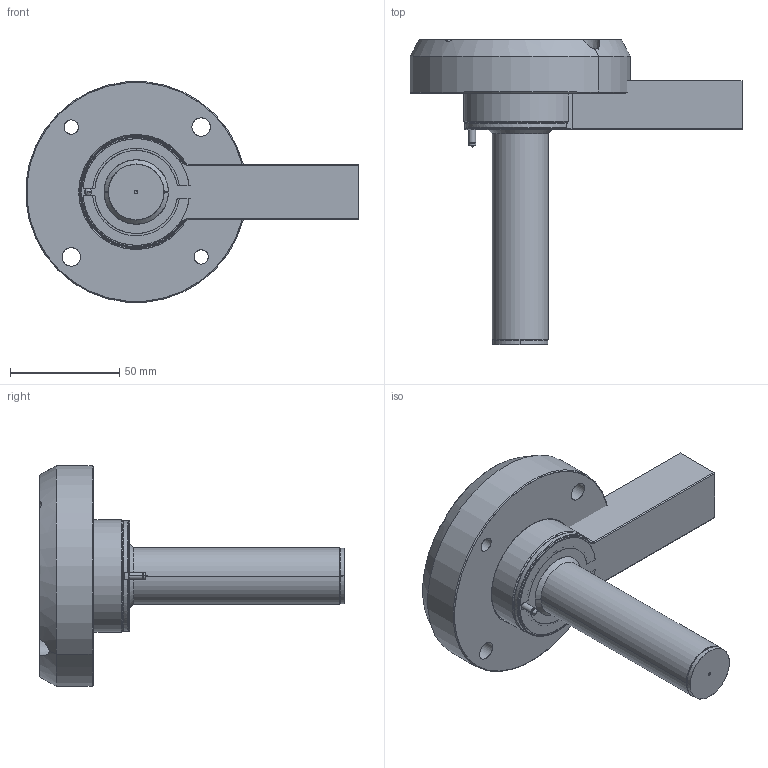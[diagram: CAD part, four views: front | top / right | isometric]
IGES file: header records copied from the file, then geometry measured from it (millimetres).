
Start section: SolidWorks IGES file using analytic representation for surfaces
Global section: file name: C:\Users\Ryan\Documents\PCS\Hot Sprue Bushings\PCS Standard Hot Sprue Bushings\HSB-XX-X-SN-100-X\HSB-38-2-SN-100-2.igs; native system: SolidWorks 2009; preprocessor: SolidWorks 2009; author: Ryan; date: 140521.052214; units: inch
Bounding box: 152.08 x 139.68 x 100.96 mm (x, y, z)
Surface area: 99720 mm2 (no closed solid volume)
Topology: 0 solids, 0 shells, 344 faces, 5469 edges, 5463 vertices
Faces by surface type: revolution 211, bspline 133
